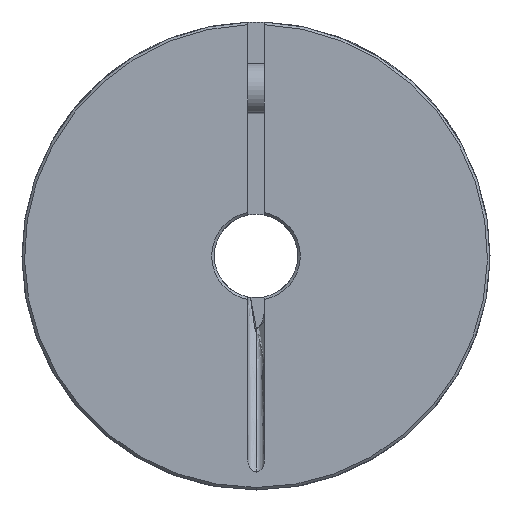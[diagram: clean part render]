
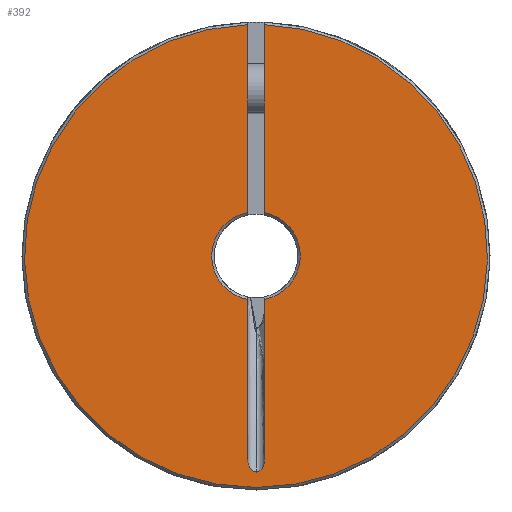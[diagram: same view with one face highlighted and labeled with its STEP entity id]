
A CAD part, left-side view. The second image highlights one B-rep face of the part: STEP entity #392.
In plain terms, the highlighted planar face has unit normal (-1, 0, 0) as drawn and (0, 0, 1) by its records, which use the part's own axes.
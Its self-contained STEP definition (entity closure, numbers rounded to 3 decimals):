
#128 = VERTEX_POINT ( 'NONE', #2157 ) ;
#143 = VERTEX_POINT ( 'NONE', #2382 ) ;
#166 = EDGE_CURVE ( 'NONE', #143, #128, #2518, .T. ) ;
#213 = ORIENTED_EDGE ( 'NONE', *, *, #166, .T. ) ;
#258 = EDGE_CURVE ( 'NONE', #439, #143, #3289, .T. ) ;
#289 = ORIENTED_EDGE ( 'NONE', *, *, #258, .T. ) ;
#334 = ORIENTED_EDGE ( 'NONE', *, *, #359, .F. ) ;
#346 = VERTEX_POINT ( 'NONE', #3992 ) ;
#359 = EDGE_CURVE ( 'NONE', #439, #346, #4125, .T. ) ;
#372 = EDGE_LOOP ( 'NONE', ( #334, #289, #213, #1320, #1231, #1118, #669, #578, #2472, #1543 ) ) ;
#392 = ADVANCED_FACE ( 'NONE', ( #4412 ), #4413, .T. ) ;
#439 = VERTEX_POINT ( 'NONE', #4601 ) ;
#578 = ORIENTED_EDGE ( 'NONE', *, *, #3175, .T. ) ;
#617 = VERTEX_POINT ( 'NONE', #2944 ) ;
#636 = EDGE_CURVE ( 'NONE', #1011, #617, #3117, .T. ) ;
#669 = ORIENTED_EDGE ( 'NONE', *, *, #636, .T. ) ;
#1011 = VERTEX_POINT ( 'NONE', #3875 ) ;
#1055 = EDGE_CURVE ( 'NONE', #1187, #1011, #4043, .T. ) ;
#1118 = ORIENTED_EDGE ( 'NONE', *, *, #1055, .T. ) ;
#1187 = VERTEX_POINT ( 'NONE', #1693 ) ;
#1204 = EDGE_CURVE ( 'NONE', #1279, #1187, #1740, .T. ) ;
#1231 = ORIENTED_EDGE ( 'NONE', *, *, #1204, .T. ) ;
#1279 = VERTEX_POINT ( 'NONE', #2065 ) ;
#1294 = EDGE_CURVE ( 'NONE', #128, #1279, #2244, .T. ) ;
#1320 = ORIENTED_EDGE ( 'NONE', *, *, #1294, .T. ) ;
#1511 = EDGE_CURVE ( 'NONE', #1903, #346, #4068, .T. ) ;
#1543 = ORIENTED_EDGE ( 'NONE', *, *, #1511, .T. ) ;
#1693 = CARTESIAN_POINT ( 'NONE',  ( -5.205, -1., 21. ) ) ;
#1740 = CIRCLE ( 'NONE', #1741, 5.3 ) ;
#1741 = AXIS2_PLACEMENT_3D ( 'NONE', #1742, #1743, #1744 ) ;
#1742 = CARTESIAN_POINT ( 'NONE',  ( 0., 0., 21. ) ) ;
#1743 = DIRECTION ( 'NONE',  ( 0., 0., -1. ) ) ;
#1744 = DIRECTION ( 'NONE',  ( 1., 0., 0. ) ) ;
#1903 = VERTEX_POINT ( 'NONE', #4563 ) ;
#2065 = CARTESIAN_POINT ( 'NONE',  ( 5.205, -1., 21. ) ) ;
#2116 = EDGE_CURVE ( 'NONE', #1903, #2958, #4627, .T. ) ;
#2138 = CARTESIAN_POINT ( 'NONE',  ( -24.376, 1., 21. ) ) ;
#2157 = CARTESIAN_POINT ( 'NONE',  ( 27.682, -1., 21. ) ) ;
#2244 = LINE ( 'NONE', #2245, #2246 ) ;
#2245 = CARTESIAN_POINT ( 'NONE',  ( 0., -1., 21. ) ) ;
#2246 = VECTOR ( 'NONE', #2247, 1000. ) ;
#2247 = DIRECTION ( 'NONE',  ( -1., 0., 0. ) ) ;
#2334 = B_SPLINE_CURVE_WITH_KNOTS ( 'NONE', 3,
 ( #2335, #2336, #2337, #2338, #2339, #2340, #2341, #2342, #2343, #2344 ),
 .UNSPECIFIED., .F., .F.,
 ( 4, 2, 2, 2, 4 ),
 ( 0., 0., 0.001, 0.001, 0.002 ),
 .UNSPECIFIED. ) ;
#2335 = CARTESIAN_POINT ( 'NONE',  ( -25.849, 0., 21. ) ) ;
#2336 = CARTESIAN_POINT ( 'NONE',  ( -25.849, 0.166, 21. ) ) ;
#2337 = CARTESIAN_POINT ( 'NONE',  ( -25.787, 0.324, 21. ) ) ;
#2338 = CARTESIAN_POINT ( 'NONE',  ( -25.59, 0.587, 21. ) ) ;
#2339 = CARTESIAN_POINT ( 'NONE',  ( -25.459, 0.691, 21. ) ) ;
#2340 = CARTESIAN_POINT ( 'NONE',  ( -25.174, 0.851, 21. ) ) ;
#2341 = CARTESIAN_POINT ( 'NONE',  ( -25.021, 0.907, 21. ) ) ;
#2342 = CARTESIAN_POINT ( 'NONE',  ( -24.702, 0.982, 21. ) ) ;
#2343 = CARTESIAN_POINT ( 'NONE',  ( -24.54, 1., 21. ) ) ;
#2344 = CARTESIAN_POINT ( 'NONE',  ( -24.376, 1., 21. ) ) ;
#2382 = CARTESIAN_POINT ( 'NONE',  ( -27.7, 0., 21. ) ) ;
#2472 = ORIENTED_EDGE ( 'NONE', *, *, #2116, .F. ) ;
#2518 = CIRCLE ( 'NONE', #2519, 27.7 ) ;
#2519 = AXIS2_PLACEMENT_3D ( 'NONE', #2520, #2521, #2522 ) ;
#2520 = CARTESIAN_POINT ( 'NONE',  ( 0., 0., 21. ) ) ;
#2521 = DIRECTION ( 'NONE',  ( 0., 0., 1. ) ) ;
#2522 = DIRECTION ( 'NONE',  ( 1., 0., 0. ) ) ;
#2944 = CARTESIAN_POINT ( 'NONE',  ( -25.849, 0., 21. ) ) ;
#2958 = VERTEX_POINT ( 'NONE', #2138 ) ;
#3117 = B_SPLINE_CURVE_WITH_KNOTS ( 'NONE', 3,
 ( #3120, #3121, #3122, #3123, #3124, #3125, #3126, #3127, #3128, #3129 ),
 .UNSPECIFIED., .F., .F.,
 ( 4, 2, 2, 2, 4 ),
 ( 0., 0., 0.001, 0.001, 0.002 ),
 .UNSPECIFIED. ) ;
#3120 = CARTESIAN_POINT ( 'NONE',  ( -24.376, -1., 21. ) ) ;
#3121 = CARTESIAN_POINT ( 'NONE',  ( -24.54, -1., 21. ) ) ;
#3122 = CARTESIAN_POINT ( 'NONE',  ( -24.702, -0.982, 21. ) ) ;
#3123 = CARTESIAN_POINT ( 'NONE',  ( -25.017, -0.909, 21. ) ) ;
#3124 = CARTESIAN_POINT ( 'NONE',  ( -25.173, -0.852, 21. ) ) ;
#3125 = CARTESIAN_POINT ( 'NONE',  ( -25.458, -0.692, 21. ) ) ;
#3126 = CARTESIAN_POINT ( 'NONE',  ( -25.589, -0.588, 21. ) ) ;
#3127 = CARTESIAN_POINT ( 'NONE',  ( -25.786, -0.325, 21. ) ) ;
#3128 = CARTESIAN_POINT ( 'NONE',  ( -25.849, -0.166, 21. ) ) ;
#3129 = CARTESIAN_POINT ( 'NONE',  ( -25.849, 0., 21. ) ) ;
#3175 = EDGE_CURVE ( 'NONE', #617, #2958, #2334, .T. ) ;
#3289 = CIRCLE ( 'NONE', #3290, 27.7 ) ;
#3290 = AXIS2_PLACEMENT_3D ( 'NONE', #3291, #3292, #3293 ) ;
#3291 = CARTESIAN_POINT ( 'NONE',  ( 0., 0., 21. ) ) ;
#3292 = DIRECTION ( 'NONE',  ( 0., 0., 1. ) ) ;
#3293 = DIRECTION ( 'NONE',  ( 1., 0., 0. ) ) ;
#3875 = CARTESIAN_POINT ( 'NONE',  ( -24.376, -1., 21. ) ) ;
#3992 = CARTESIAN_POINT ( 'NONE',  ( 5.205, 1., 21. ) ) ;
#4043 = LINE ( 'NONE', #4044, #4045 ) ;
#4044 = CARTESIAN_POINT ( 'NONE',  ( 0., -1., 21. ) ) ;
#4045 = VECTOR ( 'NONE', #4046, 1000. ) ;
#4046 = DIRECTION ( 'NONE',  ( -1., 0., 0. ) ) ;
#4068 = CIRCLE ( 'NONE', #4069, 5.3 ) ;
#4069 = AXIS2_PLACEMENT_3D ( 'NONE', #4070, #4071, #4072 ) ;
#4070 = CARTESIAN_POINT ( 'NONE',  ( 0., 0., 21. ) ) ;
#4071 = DIRECTION ( 'NONE',  ( 0., 0., -1. ) ) ;
#4072 = DIRECTION ( 'NONE',  ( 1., 0., 0. ) ) ;
#4125 = LINE ( 'NONE', #4126, #4127 ) ;
#4126 = CARTESIAN_POINT ( 'NONE',  ( 0., 1., 21. ) ) ;
#4127 = VECTOR ( 'NONE', #4128, 1000. ) ;
#4128 = DIRECTION ( 'NONE',  ( -1., 0., 0. ) ) ;
#4412 = FACE_OUTER_BOUND ( 'NONE', #372, .T. ) ;
#4413 = PLANE ( 'NONE',  #4414 ) ;
#4414 = AXIS2_PLACEMENT_3D ( 'NONE', #4415, #4416, #4417 ) ;
#4415 = CARTESIAN_POINT ( 'NONE',  ( 0., 0., 21. ) ) ;
#4416 = DIRECTION ( 'NONE',  ( 0., 0., 1. ) ) ;
#4417 = DIRECTION ( 'NONE',  ( 1., 0., 0. ) ) ;
#4563 = CARTESIAN_POINT ( 'NONE',  ( -5.205, 1., 21. ) ) ;
#4601 = CARTESIAN_POINT ( 'NONE',  ( 27.682, 1., 21. ) ) ;
#4627 = LINE ( 'NONE', #4628, #4629 ) ;
#4628 = CARTESIAN_POINT ( 'NONE',  ( 0., 1., 21. ) ) ;
#4629 = VECTOR ( 'NONE', #4630, 1000. ) ;
#4630 = DIRECTION ( 'NONE',  ( -1., 0., 0. ) ) ;
